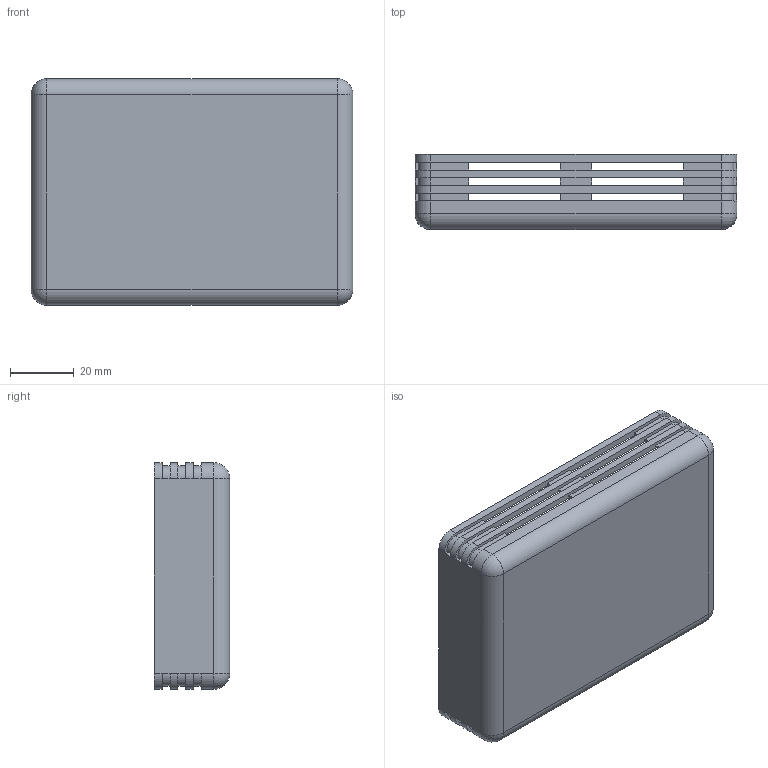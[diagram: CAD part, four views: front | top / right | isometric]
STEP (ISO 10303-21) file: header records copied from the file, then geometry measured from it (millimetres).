
FILE_DESCRIPTION (( 'STEP AP214' ), '1' );
FILE_NAME ('Tapa PP121.STEP', '2019-10-28T18:44:49', ( 'aaa' ), ( '' ), 'SwSTEP 2.0', 'SolidWorks 2014', '' );
FILE_SCHEMA (( 'AUTOMOTIVE_DESIGN' ));
Length unit declared in the file: millimetre
Products named in the file (1): Tapa PP121
Bounding box: 100.9 x 23.65 x 71 mm (x, y, z)
Volume: 25923.4 mm3; surface area: 29853.3 mm2
Topology: 1 solids, 1 shells, 191 faces, 500 edges, 316 vertices
Faces by surface type: plane 103, cylinder 80, sphere 4, torus 4
Entity records: 5904 total; most frequent: DIRECTION 1044, CARTESIAN_POINT 1004, ORIENTED_EDGE 992, EDGE_CURVE 496, AXIS2_PLACEMENT_3D 356, LINE 332, VECTOR 332, VERTEX_POINT 316
